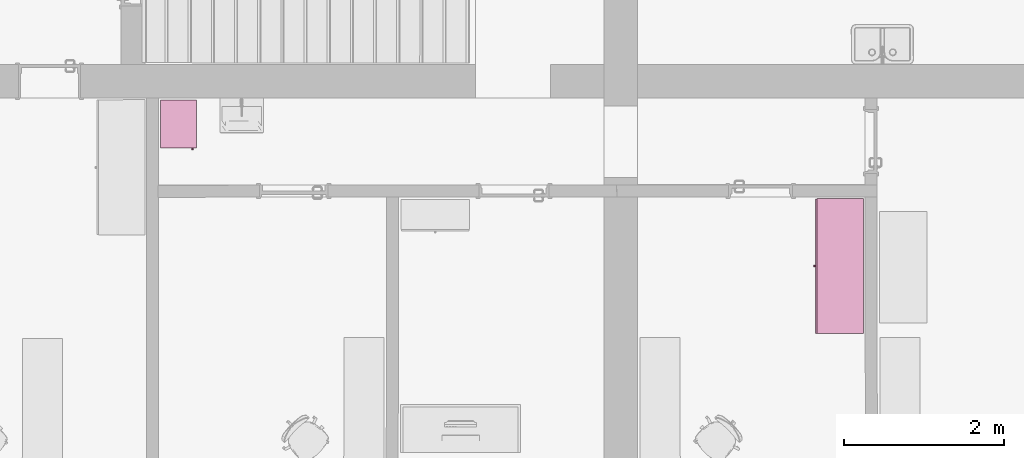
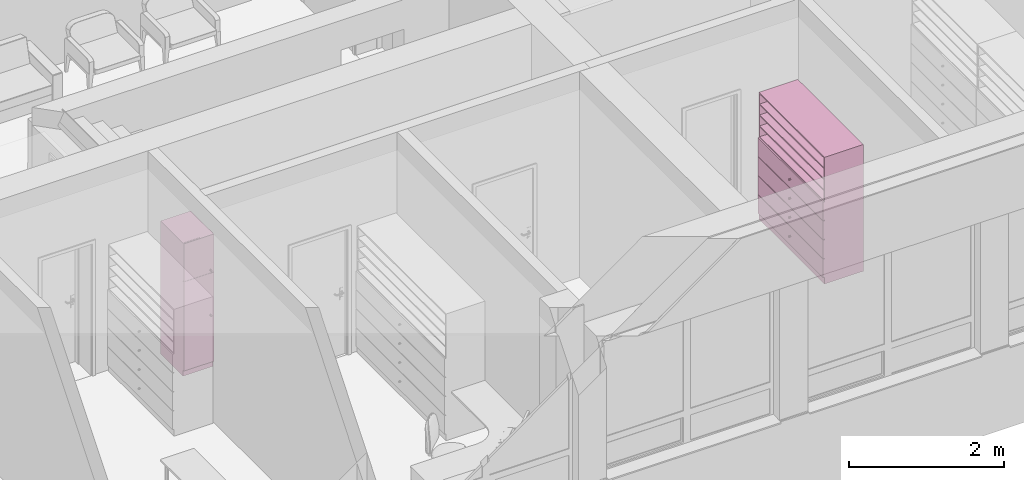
# One storey, part 140 of 194: 2 furnishings.
"""IFC2X3 building model written with IfcOpenShell, lengths in millimetres."""

from ifc_helpers import new_model, entity, si_unit, converted_unit, derived_unit, money_unit, direction, frame, origin_with_axes, place, context, subcontext, project, spatial, faceted_brep, source, transform, mapped, type_object, element, save


model = new_model("IFC2X3")

# Units and contexts
model_context = context("Model", 3, precision=1e-05, world=origin_with_axes(), true_north=direction((0.0, 1.0)))
body_context = subcontext(model_context, "Body", "Model", "MODEL_VIEW")
ifc_project = project(units=[si_unit("LENGTHUNIT", "METRE", prefix="MILLI"), si_unit("AREAUNIT", "SQUARE_METRE"), si_unit("VOLUMEUNIT", "CUBIC_METRE"), converted_unit("PLANEANGLEUNIT", "DEGREE", entity("IfcPlaneAngleMeasure", 0.0174532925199), si_unit("PLANEANGLEUNIT", "RADIAN"), dimensions=[0, 0, 0, 0, 0, 0, 0]), si_unit("SOLIDANGLEUNIT", "STERADIAN"), money_unit("EUR"), converted_unit("TIMEUNIT", "Year", entity("IfcTimeMeasure", 31556926.0), si_unit("TIMEUNIT", "SECOND"), dimensions=[0, 0, 1, 0, 0, 0, 0]), si_unit("MASSUNIT", "GRAM", prefix="KILO"), si_unit("THERMODYNAMICTEMPERATUREUNIT", "DEGREE_CELSIUS"), si_unit("LUMINOUSINTENSITYUNIT", "LUMEN"), si_unit("ENERGYUNIT", "JOULE", prefix="MEGA"), derived_unit("THERMALCONDUCTANCEUNIT", [(si_unit("POWERUNIT", "WATT"), 1), (si_unit("LENGTHUNIT", "METRE"), -1), (si_unit("THERMODYNAMICTEMPERATUREUNIT", "KELVIN"), -1)]), derived_unit("SPECIFICHEATCAPACITYUNIT", [(si_unit("ENERGYUNIT", "JOULE"), 1), (si_unit("MASSUNIT", "GRAM", prefix="KILO"), -1), (si_unit("THERMODYNAMICTEMPERATUREUNIT", "KELVIN"), -1)]), derived_unit("MASSDENSITYUNIT", [(si_unit("MASSUNIT", "GRAM", prefix="KILO"), 1), (si_unit("VOLUMEUNIT", "CUBIC_METRE"), -1)])], contexts=[model_context])

# Site, building, storey
site_placement = place(None, origin_with_axes())
site = spatial("IfcSite", under=ifc_project, at=site_placement, Name="Site", CompositionType="ELEMENT")
building_placement = place(site_placement, origin_with_axes())
building = spatial("IfcBuilding", under=site, at=building_placement, Name="Building", CompositionType="ELEMENT")
storey_placement = place(building_placement, frame((0.0, 0.0, 3000.0), z_axis=(0.0, 0.0, 1.0), x_axis=(1.0, 0.0, 0.0)))
storey = spatial("IfcBuildingStorey", under=building, at=storey_placement, Name="2 KORRUS", CompositionType="ELEMENT", Elevation=3000.0)

# Furnishings
furnishing_element_type_1 = type_object("IfcFurnishingElementType", Name="Model Element 57")
shared_shape_1 = source(origin_with_axes(), body_context, "Body", "Brep", [
    faceted_brep([(20.0, 20.0, 1490.0), (430.0, 20.0, 1490.0), (430.0, 20.0, 1510.0), (20.0, 20.0, 1510.0), (20.0, 580.0, 1490.0), (430.0, 580.0, 1490.0), (430.0, 580.0, 1510.0), (20.0, 580.0, 1510.0)], [[[0, 1, 2, 3]], [[0, 4, 5, 1]], [[1, 5, 6, 2]], [[3, 2, 6, 7]], [[4, 0, 3, 7]], [[5, 4, 7, 6]]]),
    faceted_brep([(0.0, 20.0, 0.0), (450.0, 20.0, 0.0), (450.0, 20.0, 90.0), (0.0, 20.0, 90.0), (0.0, 600.0, 0.0), (450.0, 600.0, 0.0), (450.0, 600.0, 90.0), (0.0, 600.0, 90.0)], [[[0, 1, 2, 3]], [[0, 4, 5, 1]], [[1, 5, 6, 2]], [[3, 2, 6, 7]], [[4, 0, 3, 7]], [[5, 4, 7, 6]]]),
    faceted_brep([(0.0, 20.0, 2080.0), (20.0, 20.0, 2080.0), (20.0, 20.0, 2100.0), (0.0, 20.0, 2100.0), (0.0, 600.0, 2080.0), (20.0, 600.0, 2080.0), (430.0, 600.0, 2080.0), (450.0, 600.0, 2080.0), (450.0, 20.0, 2080.0), (430.0, 20.0, 2080.0), (430.0, 20.0, 2100.0), (450.0, 20.0, 2100.0), (450.0, 600.0, 2100.0), (430.0, 600.0, 2100.0), (20.0, 600.0, 2100.0), (0.0, 600.0, 2100.0)], [[[0, 1, 2, 3]], [[0, 4, 5, 6, 7, 8, 9, 1]], [[1, 9, 10, 2]], [[3, 2, 10, 11, 12, 13, 14, 15]], [[4, 0, 3, 15]], [[5, 4, 15, 14]], [[6, 5, 14, 13]], [[7, 6, 13, 12]], [[8, 7, 12, 11]], [[9, 8, 11, 10]]]),
    faceted_brep([(0.0, 20.0, 90.0), (20.0, 20.0, 90.0), (20.0, 20.0, 110.0), (0.0, 20.0, 110.0), (0.0, 600.0, 90.0), (20.0, 600.0, 90.0), (430.0, 600.0, 90.0), (450.0, 600.0, 90.0), (450.0, 20.0, 90.0), (430.0, 20.0, 90.0), (430.0, 20.0, 110.0), (450.0, 20.0, 110.0), (450.0, 600.0, 110.0), (430.0, 600.0, 110.0), (20.0, 600.0, 110.0), (0.0, 600.0, 110.0)], [[[0, 1, 2, 3]], [[0, 4, 5, 6, 7, 8, 9, 1]], [[1, 9, 10, 2]], [[3, 2, 10, 11, 12, 13, 14, 15]], [[4, 0, 3, 15]], [[5, 4, 15, 14]], [[6, 5, 14, 13]], [[7, 6, 13, 12]], [[8, 7, 12, 11]], [[9, 8, 11, 10]]]),
    faceted_brep([(0.0, 20.0, 110.0), (20.0, 20.0, 110.0), (20.0, 20.0, 2080.0), (0.0, 20.0, 2080.0), (0.0, 600.0, 110.0), (450.0, 600.0, 110.0), (450.0, 20.0, 110.0), (430.0, 20.0, 110.0), (430.0, 580.0, 110.0), (20.0, 580.0, 110.0), (20.0, 580.0, 2080.0), (430.0, 580.0, 2080.0), (430.0, 20.0, 2080.0), (450.0, 20.0, 2080.0), (450.0, 600.0, 2080.0), (0.0, 600.0, 2080.0)], [[[0, 1, 2, 3]], [[0, 4, 5, 6, 7, 8, 9, 1]], [[1, 9, 10, 2]], [[3, 2, 10, 11, 12, 13, 14, 15]], [[4, 0, 3, 15]], [[5, 4, 15, 14]], [[6, 5, 14, 13]], [[7, 6, 13, 12]], [[8, 7, 12, 11]], [[9, 8, 11, 10]]]),
    faceted_brep([(430.0, 20.0, 546.666666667), (430.0, 580.0, 546.666666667), (430.0, 580.0, 566.666666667), (430.0, 20.0, 566.666666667), (20.0, 20.0, 546.666666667), (20.0, 580.0, 546.666666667), (20.0, 580.0, 566.666666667), (20.0, 20.0, 566.666666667)], [[[0, 1, 2, 3]], [[0, 4, 5, 1]], [[1, 5, 6, 2]], [[3, 2, 6, 7]], [[4, 0, 3, 7]], [[5, 4, 7, 6]]]),
    faceted_brep([(430.0, 20.0, 1023.33333333), (430.0, 580.0, 1023.33333333), (430.0, 580.0, 1043.33333333), (430.0, 20.0, 1043.33333333), (20.0, 20.0, 1023.33333333), (20.0, 580.0, 1023.33333333), (20.0, 580.0, 1043.33333333), (20.0, 20.0, 1043.33333333)], [[[0, 1, 2, 3]], [[0, 4, 5, 1]], [[1, 5, 6, 2]], [[3, 2, 6, 7]], [[4, 0, 3, 7]], [[5, 4, 7, 6]]]),
    faceted_brep([(1.5, 20.0, 91.5), (448.5, 20.0, 91.5), (448.5, 0.0, 91.5), (1.5, 0.0, 91.5), (1.5, 20.0, 1498.5), (448.5, 20.0, 1498.5), (448.5, 0.0, 1498.5), (1.5, 0.0, 1498.5)], [[[0, 1, 2, 3]], [[0, 4, 5, 1]], [[1, 5, 6, 2]], [[3, 2, 6, 7]], [[4, 0, 3, 7]], [[5, 4, 7, 6]]]),
    faceted_brep([(410.091109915, 0.0, 838.394171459), (408.892304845, 0.0, 835.5), (406.985281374, 0.0, 833.014718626), (404.5, 0.0, 831.107695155), (401.605828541, 0.0, 829.908890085), (398.5, 0.0, 829.5), (395.394171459, 0.0, 829.908890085), (392.5, 0.0, 831.107695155), (390.014718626, 0.0, 833.014718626), (388.107695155, 0.0, 835.5), (386.908890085, 0.0, 838.394171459), (386.5, 0.0, 841.5), (386.908890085, 0.0, 844.605828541), (388.107695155, 0.0, 847.5), (390.014718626, 0.0, 849.985281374), (392.5, 0.0, 851.892304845), (395.394171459, 0.0, 853.091109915), (398.5, 0.0, 853.5), (401.605828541, 0.0, 853.091109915), (404.5, 0.0, 851.892304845), (406.985281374, 0.0, 849.985281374), (408.892304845, 0.0, 847.5), (410.091109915, 0.0, 844.605828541), (410.5, 0.0, 841.5), (410.091109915, -25.0, 838.394171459), (408.892304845, -25.0, 835.5), (406.985281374, -25.0, 833.014718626), (404.5, -25.0, 831.107695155), (401.605828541, -25.0, 829.908890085), (398.5, -25.0, 829.5), (395.394171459, -25.0, 829.908890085), (392.5, -25.0, 831.107695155), (390.014718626, -25.0, 833.014718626), (388.107695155, -25.0, 835.5), (386.908890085, -25.0, 838.394171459), (386.5, -25.0, 841.5), (386.908890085, -25.0, 844.605828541), (388.107695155, -25.0, 847.5), (390.014718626, -25.0, 849.985281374), (392.5, -25.0, 851.892304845), (395.394171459, -25.0, 853.091109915), (398.5, -25.0, 853.5), (401.605828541, -25.0, 853.091109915), (404.5, -25.0, 851.892304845), (406.985281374, -25.0, 849.985281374), (408.892304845, -25.0, 847.5), (410.091109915, -25.0, 844.605828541), (410.5, -25.0, 841.5)], [[[0, 1, 2, 3, 4, 5, 6, 7, 8, 9, 10, 11, 12, 13, 14, 15, 16, 17, 18, 19, 20, 21, 22, 23]], [[1, 0, 24, 25]], [[2, 1, 25, 26]], [[3, 2, 26, 27]], [[4, 3, 27, 28]], [[5, 4, 28, 29]], [[6, 5, 29, 30]], [[7, 6, 30, 31]], [[8, 7, 31, 32]], [[9, 8, 32, 33]], [[10, 9, 33, 34]], [[11, 10, 34, 35]], [[12, 11, 35, 36]], [[13, 12, 36, 37]], [[14, 13, 37, 38]], [[15, 14, 38, 39]], [[16, 15, 39, 40]], [[17, 16, 40, 41]], [[18, 17, 41, 42]], [[19, 18, 42, 43]], [[20, 19, 43, 44]], [[21, 20, 44, 45]], [[22, 21, 45, 46]], [[23, 22, 46, 47]], [[0, 23, 47, 24]], [[24, 47, 46, 45, 44, 43, 42, 41, 40, 39, 38, 37, 36, 35, 34, 33, 32, 31, 30, 29, 28, 27, 26, 25]]]),
    faceted_brep([(1.5, 20.0, 1501.5), (448.5, 20.0, 1501.5), (448.5, 0.0, 1501.5), (1.5, 0.0, 1501.5), (1.5, 20.0, 2098.5), (448.5, 20.0, 2098.5), (448.5, 0.0, 2098.5), (1.5, 0.0, 2098.5)], [[[0, 1, 2, 3]], [[0, 4, 5, 1]], [[1, 5, 6, 2]], [[3, 2, 6, 7]], [[4, 0, 3, 7]], [[5, 4, 7, 6]]]),
    faceted_brep([(410.091109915, 0.0, 1548.39417146), (408.892304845, 0.0, 1545.5), (406.985281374, 0.0, 1543.01471863), (404.5, 0.0, 1541.10769515), (401.605828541, 0.0, 1539.90889008), (398.5, 0.0, 1539.5), (395.394171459, 0.0, 1539.90889008), (392.5, 0.0, 1541.10769515), (390.014718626, 0.0, 1543.01471863), (388.107695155, 0.0, 1545.5), (386.908890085, 0.0, 1548.39417146), (386.5, 0.0, 1551.5), (386.908890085, 0.0, 1554.60582854), (388.107695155, 0.0, 1557.5), (390.014718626, 0.0, 1559.98528137), (392.5, 0.0, 1561.89230485), (395.394171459, 0.0, 1563.09110992), (398.5, 0.0, 1563.5), (401.605828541, 0.0, 1563.09110992), (404.5, 0.0, 1561.89230485), (406.985281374, 0.0, 1559.98528137), (408.892304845, 0.0, 1557.5), (410.091109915, 0.0, 1554.60582854), (410.5, 0.0, 1551.5), (410.091109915, -25.0, 1548.39417146), (408.892304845, -25.0, 1545.5), (406.985281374, -25.0, 1543.01471863), (404.5, -25.0, 1541.10769515), (401.605828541, -25.0, 1539.90889008), (398.5, -25.0, 1539.5), (395.394171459, -25.0, 1539.90889008), (392.5, -25.0, 1541.10769515), (390.014718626, -25.0, 1543.01471863), (388.107695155, -25.0, 1545.5), (386.908890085, -25.0, 1548.39417146), (386.5, -25.0, 1551.5), (386.908890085, -25.0, 1554.60582854), (388.107695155, -25.0, 1557.5), (390.014718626, -25.0, 1559.98528137), (392.5, -25.0, 1561.89230485), (395.394171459, -25.0, 1563.09110992), (398.5, -25.0, 1563.5), (401.605828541, -25.0, 1563.09110992), (404.5, -25.0, 1561.89230485), (406.985281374, -25.0, 1559.98528137), (408.892304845, -25.0, 1557.5), (410.091109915, -25.0, 1554.60582854), (410.5, -25.0, 1551.5)], [[[0, 1, 2, 3, 4, 5, 6, 7, 8, 9, 10, 11, 12, 13, 14, 15, 16, 17, 18, 19, 20, 21, 22, 23]], [[1, 0, 24, 25]], [[2, 1, 25, 26]], [[3, 2, 26, 27]], [[4, 3, 27, 28]], [[5, 4, 28, 29]], [[6, 5, 29, 30]], [[7, 6, 30, 31]], [[8, 7, 31, 32]], [[9, 8, 32, 33]], [[10, 9, 33, 34]], [[11, 10, 34, 35]], [[12, 11, 35, 36]], [[13, 12, 36, 37]], [[14, 13, 37, 38]], [[15, 14, 38, 39]], [[16, 15, 39, 40]], [[17, 16, 40, 41]], [[18, 17, 41, 42]], [[19, 18, 42, 43]], [[20, 19, 43, 44]], [[21, 20, 44, 45]], [[22, 21, 45, 46]], [[23, 22, 46, 47]], [[0, 23, 47, 24]], [[24, 47, 46, 45, 44, 43, 42, 41, 40, 39, 38, 37, 36, 35, 34, 33, 32, 31, 30, 29, 28, 27, 26, 25]]]),
])
furnishing_1_placement = place(storey_placement, frame((82183.713115, 39958.1296361, 0.0), z_axis=(0.0, 0.0, 1.0), x_axis=(1.0, 0.0, 0.0)))
element("IfcFurnishingElement", 1, at=furnishing_1_placement, inside=storey, type_object=furnishing_element_type_1, Name="FU - 022", context=body_context, shape_type="MappedRepresentation", body=[
    mapped(shared_shape_1, transform((0.0, 0.0, 0.0))),
])
furnishing_element_type_2 = type_object("IfcFurnishingElementType", Name="Model Element 129")
shared_shape_2 = source(origin_with_axes(), body_context, "Body", "Brep", [
    faceted_brep([(-1693.4828307, 19.0, 0.0), (-1693.4828307, 599.467164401, 0.0), (0.0, 599.467164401, 0.0), (0.0, 19.0, 0.0), (-1693.4828307, 19.0, 100.0), (-1693.4828307, 599.467164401, 100.0), (0.0, 599.467164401, 100.0), (0.0, 19.0, 100.0)], [[[0, 1, 2, 3]], [[0, 4, 5, 1]], [[1, 5, 6, 2]], [[2, 6, 7, 3]], [[3, 7, 4, 0]], [[7, 6, 5, 4]]]),
    faceted_brep([(-19.0, 599.467164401, 119.0), (-19.0, 599.467164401, 1981.0), (-19.0, 580.467164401, 1981.0), (-19.0, 580.467164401, 119.0), (-1674.4828307, 599.467164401, 119.0), (-1674.4828307, 599.467164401, 1981.0), (-1674.4828307, 580.467164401, 1981.0), (-1674.4828307, 580.467164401, 119.0)], [[[0, 1, 2, 3]], [[4, 5, 1, 0]], [[1, 5, 6, 2]], [[3, 2, 6, 7]], [[0, 3, 7, 4]], [[7, 6, 5, 4]]]),
    faceted_brep([(-1693.4828307, 19.0, 100.0), (-1693.4828307, 599.467164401, 100.0), (-1674.4828307, 599.467164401, 100.0), (-1674.4828307, 19.0, 100.0), (-1693.4828307, 19.0, 2000.0), (-1693.4828307, 599.467164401, 2000.0), (-1674.4828307, 599.467164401, 2000.0), (-1674.4828307, 19.0, 2000.0)], [[[0, 1, 2, 3]], [[0, 4, 5, 1]], [[1, 5, 6, 2]], [[2, 6, 7, 3]], [[3, 7, 4, 0]], [[7, 6, 5, 4]]]),
    faceted_brep([(-19.0, 19.0, 100.0), (-19.0, 599.467164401, 100.0), (0.0, 599.467164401, 100.0), (0.0, 19.0, 100.0), (-19.0, 19.0, 2000.0), (-19.0, 599.467164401, 2000.0), (0.0, 599.467164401, 2000.0), (0.0, 19.0, 2000.0)], [[[0, 1, 2, 3]], [[0, 4, 5, 1]], [[1, 5, 6, 2]], [[2, 6, 7, 3]], [[3, 7, 4, 0]], [[7, 6, 5, 4]]]),
    faceted_brep([(-1674.4828307, 19.0, 100.0), (-1674.4828307, 599.467164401, 100.0), (-19.0, 599.467164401, 100.0), (-19.0, 19.0, 100.0), (-1674.4828307, 19.0, 119.0), (-1674.4828307, 599.467164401, 119.0), (-19.0, 599.467164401, 119.0), (-19.0, 19.0, 119.0)], [[[0, 1, 2, 3]], [[0, 4, 5, 1]], [[1, 5, 6, 2]], [[2, 6, 7, 3]], [[3, 7, 4, 0]], [[7, 6, 5, 4]]]),
    faceted_brep([(-1674.4828307, 19.0, 1981.0), (-1674.4828307, 599.467164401, 1981.0), (-19.0, 599.467164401, 1981.0), (-19.0, 19.0, 1981.0), (-1674.4828307, 19.0, 2000.0), (-1674.4828307, 599.467164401, 2000.0), (-19.0, 599.467164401, 2000.0), (-19.0, 19.0, 2000.0)], [[[0, 1, 2, 3]], [[0, 4, 5, 1]], [[1, 5, 6, 2]], [[2, 6, 7, 3]], [[3, 7, 4, 0]], [[7, 6, 5, 4]]]),
    faceted_brep([(-5.0, 19.0, 105.0), (-5.0, 0.0, 105.0), (-1688.4828307, 0.0, 105.0), (-1688.4828307, 19.0, 105.0), (-5.0, 19.0, 395.0), (-5.0, 0.0, 395.0), (-1688.4828307, 0.0, 395.0), (-1688.4828307, 19.0, 395.0)], [[[0, 1, 2, 3]], [[4, 5, 1, 0]], [[1, 5, 6, 2]], [[3, 2, 6, 7]], [[0, 3, 7, 4]], [[7, 6, 5, 4]]]),
    faceted_brep([(-857.133720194, 0.0, 244.0), (-858.741415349, 0.0, 250.0), (-857.133720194, 0.0, 256.0), (-852.741415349, 0.0, 260.392304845), (-846.741415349, 0.0, 262.0), (-840.741415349, 0.0, 260.392304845), (-836.349110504, 0.0, 256.0), (-834.741415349, 0.0, 250.0), (-836.349110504, 0.0, 244.0), (-840.741415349, 0.0, 239.607695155), (-846.741415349, 0.0, 238.0), (-852.741415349, 0.0, 239.607695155), (-857.133720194, -25.0, 244.0), (-858.741415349, -25.0, 250.0), (-857.133720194, -25.0, 256.0), (-852.741415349, -25.0, 260.392304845), (-846.741415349, -25.0, 262.0), (-840.741415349, -25.0, 260.392304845), (-836.349110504, -25.0, 256.0), (-834.741415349, -25.0, 250.0), (-836.349110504, -25.0, 244.0), (-840.741415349, -25.0, 239.607695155), (-846.741415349, -25.0, 238.0), (-852.741415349, -25.0, 239.607695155)], [[[0, 1, 2, 3, 4, 5, 6, 7, 8, 9, 10, 11]], [[0, 12, 13, 1]], [[1, 13, 14, 2]], [[2, 14, 15, 3]], [[3, 15, 16, 4]], [[4, 16, 17, 5]], [[5, 17, 18, 6]], [[6, 18, 19, 7]], [[7, 19, 20, 8]], [[8, 20, 21, 9]], [[9, 21, 22, 10]], [[10, 22, 23, 11]], [[11, 23, 12, 0]], [[12, 23, 22, 21, 20, 19, 18, 17, 16, 15, 14, 13]]]),
    faceted_brep([(-5.0, 19.0, 405.0), (-5.0, 0.0, 405.0), (-1688.4828307, 0.0, 405.0), (-1688.4828307, 19.0, 405.0), (-5.0, 19.0, 695.0), (-5.0, 0.0, 695.0), (-1688.4828307, 0.0, 695.0), (-1688.4828307, 19.0, 695.0)], [[[0, 1, 2, 3]], [[4, 5, 1, 0]], [[1, 5, 6, 2]], [[3, 2, 6, 7]], [[0, 3, 7, 4]], [[7, 6, 5, 4]]]),
    faceted_brep([(-857.133720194, 0.0, 544.0), (-858.741415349, 0.0, 550.0), (-857.133720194, 0.0, 556.0), (-852.741415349, 0.0, 560.392304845), (-846.741415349, 0.0, 562.0), (-840.741415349, 0.0, 560.392304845), (-836.349110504, 0.0, 556.0), (-834.741415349, 0.0, 550.0), (-836.349110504, 0.0, 544.0), (-840.741415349, 0.0, 539.607695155), (-846.741415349, 0.0, 538.0), (-852.741415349, 0.0, 539.607695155), (-857.133720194, -25.0, 544.0), (-858.741415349, -25.0, 550.0), (-857.133720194, -25.0, 556.0), (-852.741415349, -25.0, 560.392304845), (-846.741415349, -25.0, 562.0), (-840.741415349, -25.0, 560.392304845), (-836.349110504, -25.0, 556.0), (-834.741415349, -25.0, 550.0), (-836.349110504, -25.0, 544.0), (-840.741415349, -25.0, 539.607695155), (-846.741415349, -25.0, 538.0), (-852.741415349, -25.0, 539.607695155)], [[[0, 1, 2, 3, 4, 5, 6, 7, 8, 9, 10, 11]], [[0, 12, 13, 1]], [[1, 13, 14, 2]], [[2, 14, 15, 3]], [[3, 15, 16, 4]], [[4, 16, 17, 5]], [[5, 17, 18, 6]], [[6, 18, 19, 7]], [[7, 19, 20, 8]], [[8, 20, 21, 9]], [[9, 21, 22, 10]], [[10, 22, 23, 11]], [[11, 23, 12, 0]], [[12, 23, 22, 21, 20, 19, 18, 17, 16, 15, 14, 13]]]),
    faceted_brep([(-5.0, 19.0, 705.0), (-5.0, 0.0, 705.0), (-1688.4828307, 0.0, 705.0), (-1688.4828307, 19.0, 705.0), (-5.0, 19.0, 995.0), (-5.0, 0.0, 995.0), (-1688.4828307, 0.0, 995.0), (-1688.4828307, 19.0, 995.0)], [[[0, 1, 2, 3]], [[4, 5, 1, 0]], [[1, 5, 6, 2]], [[3, 2, 6, 7]], [[0, 3, 7, 4]], [[7, 6, 5, 4]]]),
    faceted_brep([(-857.133720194, 0.0, 844.0), (-858.741415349, 0.0, 850.0), (-857.133720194, 0.0, 856.0), (-852.741415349, 0.0, 860.392304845), (-846.741415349, 0.0, 862.0), (-840.741415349, 0.0, 860.392304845), (-836.349110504, 0.0, 856.0), (-834.741415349, 0.0, 850.0), (-836.349110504, 0.0, 844.0), (-840.741415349, 0.0, 839.607695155), (-846.741415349, 0.0, 838.0), (-852.741415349, 0.0, 839.607695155), (-857.133720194, -25.0, 844.0), (-858.741415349, -25.0, 850.0), (-857.133720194, -25.0, 856.0), (-852.741415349, -25.0, 860.392304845), (-846.741415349, -25.0, 862.0), (-840.741415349, -25.0, 860.392304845), (-836.349110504, -25.0, 856.0), (-834.741415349, -25.0, 850.0), (-836.349110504, -25.0, 844.0), (-840.741415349, -25.0, 839.607695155), (-846.741415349, -25.0, 838.0), (-852.741415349, -25.0, 839.607695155)], [[[0, 1, 2, 3, 4, 5, 6, 7, 8, 9, 10, 11]], [[0, 12, 13, 1]], [[1, 13, 14, 2]], [[2, 14, 15, 3]], [[3, 15, 16, 4]], [[4, 16, 17, 5]], [[5, 17, 18, 6]], [[6, 18, 19, 7]], [[7, 19, 20, 8]], [[8, 20, 21, 9]], [[9, 21, 22, 10]], [[10, 22, 23, 11]], [[11, 23, 12, 0]], [[12, 23, 22, 21, 20, 19, 18, 17, 16, 15, 14, 13]]]),
    faceted_brep([(-5.0, 19.0, 1005.0), (-5.0, 0.0, 1005.0), (-1688.4828307, 0.0, 1005.0), (-1688.4828307, 19.0, 1005.0), (-5.0, 19.0, 1295.0), (-5.0, 0.0, 1295.0), (-1688.4828307, 0.0, 1295.0), (-1688.4828307, 19.0, 1295.0)], [[[0, 1, 2, 3]], [[4, 5, 1, 0]], [[1, 5, 6, 2]], [[3, 2, 6, 7]], [[0, 3, 7, 4]], [[7, 6, 5, 4]]]),
    faceted_brep([(-857.133720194, 0.0, 1144.0), (-858.741415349, 0.0, 1150.0), (-857.133720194, 0.0, 1156.0), (-852.741415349, 0.0, 1160.39230485), (-846.741415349, 0.0, 1162.0), (-840.741415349, 0.0, 1160.39230485), (-836.349110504, 0.0, 1156.0), (-834.741415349, 0.0, 1150.0), (-836.349110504, 0.0, 1144.0), (-840.741415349, 0.0, 1139.60769515), (-846.741415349, 0.0, 1138.0), (-852.741415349, 0.0, 1139.60769515), (-857.133720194, -25.0, 1144.0), (-858.741415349, -25.0, 1150.0), (-857.133720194, -25.0, 1156.0), (-852.741415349, -25.0, 1160.39230485), (-846.741415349, -25.0, 1162.0), (-840.741415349, -25.0, 1160.39230485), (-836.349110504, -25.0, 1156.0), (-834.741415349, -25.0, 1150.0), (-836.349110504, -25.0, 1144.0), (-840.741415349, -25.0, 1139.60769515), (-846.741415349, -25.0, 1138.0), (-852.741415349, -25.0, 1139.60769515)], [[[0, 1, 2, 3, 4, 5, 6, 7, 8, 9, 10, 11]], [[0, 12, 13, 1]], [[1, 13, 14, 2]], [[2, 14, 15, 3]], [[3, 15, 16, 4]], [[4, 16, 17, 5]], [[5, 17, 18, 6]], [[6, 18, 19, 7]], [[7, 19, 20, 8]], [[8, 20, 21, 9]], [[9, 21, 22, 10]], [[10, 22, 23, 11]], [[11, 23, 12, 0]], [[12, 23, 22, 21, 20, 19, 18, 17, 16, 15, 14, 13]]]),
    faceted_brep([(-19.0, 19.0, 390.5), (-19.0, 19.0, 409.5), (-1674.4828307, 19.0, 409.5), (-1674.4828307, 19.0, 390.5), (-19.0, 580.467164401, 390.5), (-19.0, 580.467164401, 409.5), (-1674.4828307, 580.467164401, 409.5), (-1674.4828307, 580.467164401, 390.5)], [[[0, 1, 2, 3]], [[4, 5, 1, 0]], [[1, 5, 6, 2]], [[3, 2, 6, 7]], [[0, 3, 7, 4]], [[7, 6, 5, 4]]]),
    faceted_brep([(-19.0, 19.0, 690.5), (-19.0, 19.0, 709.5), (-1674.4828307, 19.0, 709.5), (-1674.4828307, 19.0, 690.5), (-19.0, 580.467164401, 690.5), (-19.0, 580.467164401, 709.5), (-1674.4828307, 580.467164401, 709.5), (-1674.4828307, 580.467164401, 690.5)], [[[0, 1, 2, 3]], [[4, 5, 1, 0]], [[1, 5, 6, 2]], [[3, 2, 6, 7]], [[0, 3, 7, 4]], [[7, 6, 5, 4]]]),
    faceted_brep([(-19.0, 19.0, 990.5), (-19.0, 19.0, 1009.5), (-1674.4828307, 19.0, 1009.5), (-1674.4828307, 19.0, 990.5), (-19.0, 580.467164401, 990.5), (-19.0, 580.467164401, 1009.5), (-1674.4828307, 580.467164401, 1009.5), (-1674.4828307, 580.467164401, 990.5)], [[[0, 1, 2, 3]], [[4, 5, 1, 0]], [[1, 5, 6, 2]], [[3, 2, 6, 7]], [[0, 3, 7, 4]], [[7, 6, 5, 4]]]),
    faceted_brep([(-19.0, 19.0, 1290.5), (-19.0, 19.0, 1309.5), (-1674.4828307, 19.0, 1309.5), (-1674.4828307, 19.0, 1290.5), (-19.0, 580.467164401, 1290.5), (-19.0, 580.467164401, 1309.5), (-1674.4828307, 580.467164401, 1309.5), (-1674.4828307, 580.467164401, 1290.5)], [[[0, 1, 2, 3]], [[4, 5, 1, 0]], [[1, 5, 6, 2]], [[3, 2, 6, 7]], [[0, 3, 7, 4]], [[7, 6, 5, 4]]]),
    faceted_brep([(-1674.4828307, 19.0, 1463.125), (-1674.4828307, 580.467164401, 1463.125), (-19.0, 580.467164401, 1463.125), (-19.0, 19.0, 1463.125), (-1674.4828307, 19.0, 1482.125), (-1674.4828307, 580.467164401, 1482.125), (-19.0, 580.467164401, 1482.125), (-19.0, 19.0, 1482.125)], [[[0, 1, 2, 3]], [[0, 4, 5, 1]], [[1, 5, 6, 2]], [[2, 6, 7, 3]], [[3, 7, 4, 0]], [[7, 6, 5, 4]]]),
    faceted_brep([(-1674.4828307, 19.0, 1635.75), (-1674.4828307, 580.467164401, 1635.75), (-19.0, 580.467164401, 1635.75), (-19.0, 19.0, 1635.75), (-1674.4828307, 19.0, 1654.75), (-1674.4828307, 580.467164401, 1654.75), (-19.0, 580.467164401, 1654.75), (-19.0, 19.0, 1654.75)], [[[0, 1, 2, 3]], [[0, 4, 5, 1]], [[1, 5, 6, 2]], [[2, 6, 7, 3]], [[3, 7, 4, 0]], [[7, 6, 5, 4]]]),
    faceted_brep([(-1674.4828307, 19.0, 1808.375), (-1674.4828307, 580.467164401, 1808.375), (-19.0, 580.467164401, 1808.375), (-19.0, 19.0, 1808.375), (-1674.4828307, 19.0, 1827.375), (-1674.4828307, 580.467164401, 1827.375), (-19.0, 580.467164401, 1827.375), (-19.0, 19.0, 1827.375)], [[[0, 1, 2, 3]], [[0, 4, 5, 1]], [[1, 5, 6, 2]], [[2, 6, 7, 3]], [[3, 7, 4, 0]], [[7, 6, 5, 4]]]),
])
furnishing_2_placement = place(storey_placement, frame((90383.3502191, 37630.3220777, 0.0), z_axis=(0.0, 0.0, 1.0), x_axis=(0.00064265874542, -0.999999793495, 0.0)))
element("IfcFurnishingElement", 2, at=furnishing_2_placement, inside=storey, type_object=furnishing_element_type_2, Name="FU - 001", context=body_context, shape_type="MappedRepresentation", body=[
    mapped(shared_shape_2, transform((0.0, 0.0, 0.0))),
])

save(model, "model.ifc")
